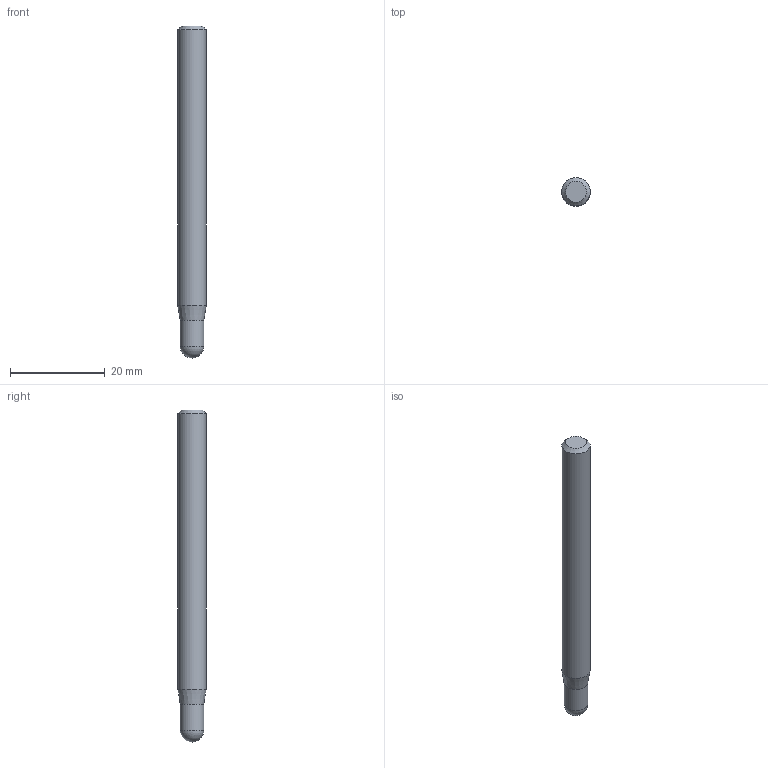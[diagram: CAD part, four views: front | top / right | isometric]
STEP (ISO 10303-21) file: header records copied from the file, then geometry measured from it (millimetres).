
FILE_DESCRIPTION((''),'2;1');
FILE_NAME('C:\Users\nsx150\AppData\Local\Temp\Mastercam 2021\J4S5TCIUH2\TEMP.step','2022-01-25T17:53:55',(''),(''),'STEP Write','Mastercam 2021 ... CNC Software, Inc.','');
FILE_SCHEMA(('AUTOMOTIVE_DESIGN'));
Length unit declared in the file: millimetre
Products named in the file (1): None
Bounding box: 6 x 6 x 70 mm (x, y, z)
Volume: 1874.2 mm3; surface area: 1347.9 mm2
Topology: 2 solids, 2 shells, 8 faces, 12 edges, 7 vertices
Faces by surface type: plane 3, cylinder 2, cone 2, sphere 1
Full cylindrical faces by diameter (mm): 5 x1, 6 x1
Entity records: 190 total; most frequent: DIRECTION 32, CARTESIAN_POINT 22, AXIS2_PLACEMENT_3D 16, ORIENTED_EDGE 12, EDGE_LOOP 12, STYLED_ITEM 11, ADVANCED_FACE 8, VERTEX_POINT 6
